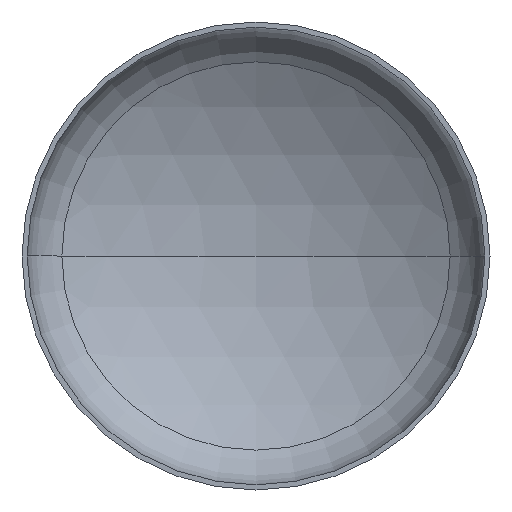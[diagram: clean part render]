
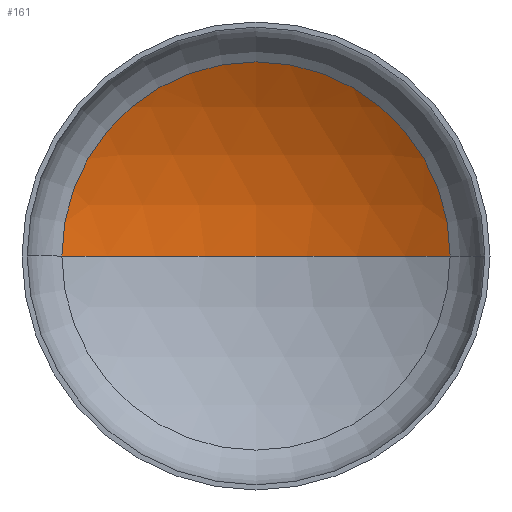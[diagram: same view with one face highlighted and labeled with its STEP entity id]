
A CAD part, front view. The second image highlights one B-rep face of the part: STEP entity #161.
In plain terms, the highlighted spherical face has radius 5200 mm.
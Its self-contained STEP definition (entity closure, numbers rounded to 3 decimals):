
#8 = ORIENTED_EDGE ( 'NONE', *, *, #398, .T. ) ;
#20 = CARTESIAN_POINT ( 'NONE',  ( 0., 975.034, 0. ) ) ;
#37 = DIRECTION ( 'NONE',  ( 1., 0., 0. ) ) ;
#41 = DIRECTION ( 'NONE',  ( 0., -1., 0. ) ) ;
#47 = ORIENTED_EDGE ( 'NONE', *, *, #411, .F. ) ;
#51 = VERTEX_POINT ( 'NONE', #214 ) ;
#53 = VERTEX_POINT ( 'NONE', #220 ) ;
#78 = DIRECTION ( 'NONE',  ( -1., 0., 0. ) ) ;
#87 = VERTEX_POINT ( 'NONE', #175 ) ;
#100 = EDGE_LOOP ( 'NONE', ( #47, #8, #371 ) ) ;
#119 = DIRECTION ( 'NONE',  ( 0., 0., 1. ) ) ;
#122 = DIRECTION ( 'NONE',  ( 1., 0., 0. ) ) ;
#123 = AXIS2_PLACEMENT_3D ( 'NONE', #331, #274, #182 ) ;
#139 = AXIS2_PLACEMENT_3D ( 'NONE', #392, #243, #78 ) ;
#161 = ADVANCED_FACE ( 'NONE', ( #345 ), #209, .F. ) ;
#175 = CARTESIAN_POINT ( 'NONE',  ( 2696.571, 975.034, 0. ) ) ;
#182 = DIRECTION ( 'NONE',  ( -1., 0., 0. ) ) ;
#199 = AXIS2_PLACEMENT_3D ( 'NONE', #240, #119, #122 ) ;
#209 = SPHERICAL_SURFACE ( 'NONE', #123, 5200. ) ;
#214 = CARTESIAN_POINT ( 'NONE',  ( -2696.571, 975.034, 0. ) ) ;
#220 = CARTESIAN_POINT ( 'NONE',  ( 0., 1728.856, 0. ) ) ;
#240 = CARTESIAN_POINT ( 'NONE',  ( 0., -3471.144, 0. ) ) ;
#243 = DIRECTION ( 'NONE',  ( 0., 0., -1. ) ) ;
#252 = EDGE_CURVE ( 'NONE', #87, #51, #394, .T. ) ;
#267 = AXIS2_PLACEMENT_3D ( 'NONE', #20, #41, #37 ) ;
#274 = DIRECTION ( 'NONE',  ( 0., 0., -1. ) ) ;
#331 = CARTESIAN_POINT ( 'NONE',  ( 0., -3471.144, 0. ) ) ;
#345 = FACE_OUTER_BOUND ( 'NONE', #100, .T. ) ;
#349 = CIRCLE ( 'NONE', #139, 5200. ) ;
#371 = ORIENTED_EDGE ( 'NONE', *, *, #252, .T. ) ;
#392 = CARTESIAN_POINT ( 'NONE',  ( 0., -3471.144, 0. ) ) ;
#394 = CIRCLE ( 'NONE', #267, 2696.571 ) ;
#398 = EDGE_CURVE ( 'NONE', #53, #87, #349, .T. ) ;
#402 = CIRCLE ( 'NONE', #199, 5200. ) ;
#411 = EDGE_CURVE ( 'NONE', #53, #51, #402, .T. ) ;
